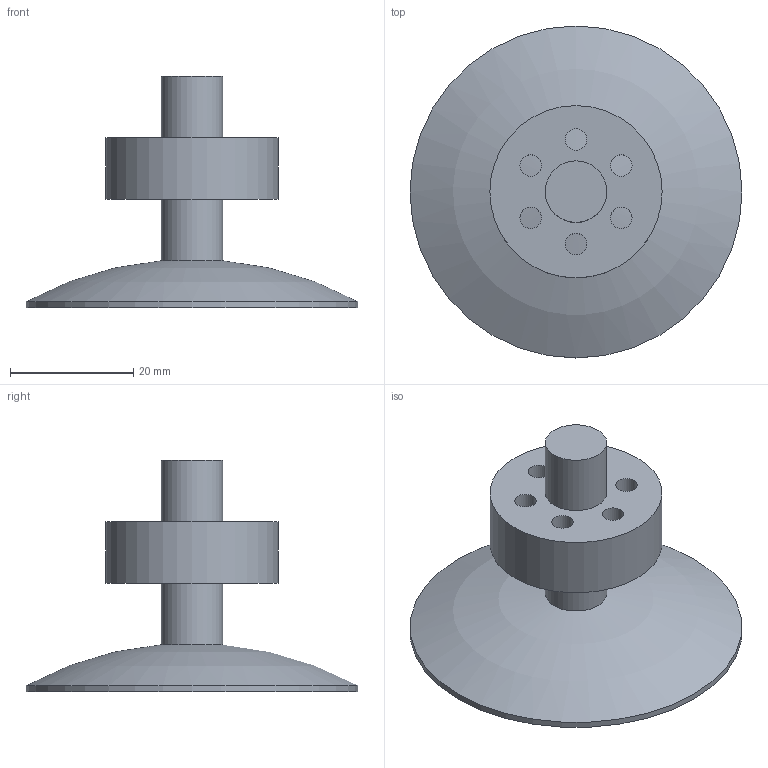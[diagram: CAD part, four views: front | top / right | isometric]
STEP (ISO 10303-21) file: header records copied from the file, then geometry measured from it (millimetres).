
FILE_DESCRIPTION(('STEP AP242'), '1');
FILE_NAME('Êîëîäêà', '', ('UNSPECIFIED'), ('UNSPECIFIED'), 'C3D Converter', 'C3D Toolkit', '');
FILE_SCHEMA(('AP242_MANAGED_MODEL_BASED_3D_ENGINEERING_MIM_LF { 1 0 10303 442 1 1 4 }'));
Length unit declared in the file: millimetre
Bounding box: 53.95 x 53.95 x 37.63 mm (x, y, z)
Volume: 17483.9 mm3; surface area: 8017.9 mm2
Topology: 1 solids, 1 shells, 15 faces, 32 edges, 21 vertices
Faces by surface type: cylinder 10, plane 4, torus 1
Full cylindrical faces by diameter (mm): 3.5 x6, 10 x2, 28 x1, 53.953 x1
Entity records: 428 total; most frequent: DIRECTION 74, CARTESIAN_POINT 58, ORIENTED_EDGE 42, EDGE_LOOP 40, AXIS2_PLACEMENT_3D 37, EDGE_CURVE 21, VERTEX_POINT 21, CIRCLE 21
